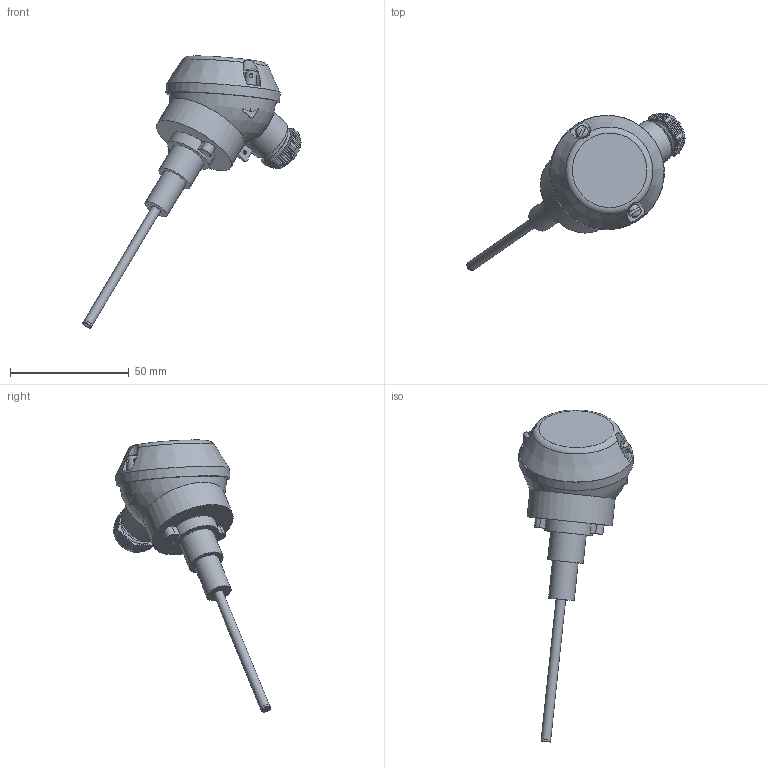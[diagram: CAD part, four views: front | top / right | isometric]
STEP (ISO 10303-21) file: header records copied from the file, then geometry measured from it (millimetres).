
FILE_DESCRIPTION(('STEP AP203'), '1');
FILE_NAME('òñï-í 5.0-60ìì(ñáîðêà)', '', ('UNSPECIFIED'), ('UNSPECIFIED'), 'ASCON STEP Converter 1.6', 'ASCON Math Kernel', '');
FILE_SCHEMA(('CONFIG_CONTROL_DESIGN'));
Length unit declared in the file: millimetre
Products named in the file (17): 栖闉罻; ﾘ琺矜 4; Ãàéêà Ì4; Êë êàëîäêà 731196-002; ﾘ琺矜 758480-006; Êîðïóñ 731196_Ïî óìîë÷àíèþ; Êîëüöî óïëîòíèòåëüíîå 754100-003_Ïî óìîë÷àíèþ; Âèíò Ì3-6; Âèíò 758410-005_Ïî óìîë÷àíèþ; Ïðîêëàäêà 754100_Ïî óìîë÷àíèþ; Êîðïóñ 723110-008-09_Ïî óìîë÷àíèþ; Çàãëóøêà 752513-004-01_Ïî óìîë÷àíèþ; Êðûøêà 753214_Ïî óìîë÷àíèþ; Ïåðåìû÷êà 758480-009; Âòóëêà ðåçüáîâàÿ 715341-002_Ïî óìîë÷àíèþ; Âèíò 715341-003_Ïî óìîë÷àíèþ
Assembly tree (40 placements, depth 3):
  栖闉罻
    ﾘ琺矜 4  x12
    Ãàéêà Ì4  x8
    Êë êàëîäêà 731196-002
    ﾘ琺矜 758480-006  x4
    Êîðïóñ 731196_Ïî óìîë÷àíèþ
    Êîëüöî óïëîòíèòåëüíîå 754100-003_Ïî óìîë÷àíèþ
    Âèíò Ì3-6  x2
    Âèíò 758410-005_Ïî óìîë÷àíèþ  x2
    Ïðîêëàäêà 754100_Ïî óìîë÷àíèþ
    Êîðïóñ 723110-008-09_Ïî óìîë÷àíèþ
      (unnamed)
      Çàãëóøêà 752513-004-01_Ïî óìîë÷àíèþ
    Êðûøêà 753214_Ïî óìîë÷àíèþ
    Ïåðåìû÷êà 758480-009  x2
    Âòóëêà ðåçüáîâàÿ 715341-002_Ïî óìîë÷àíèþ
    Âèíò 715341-003_Ïî óìîë÷àíèþ
Bounding box: 91.71 x 65.98 x 114.36 mm (x, y, z)
Volume: 40885.3 mm3; surface area: 34073.7 mm2
Topology: 39 solids, 39 shells, 821 faces, 2134 edges, 1416 vertices
Faces by surface type: plane 361, cylinder 305, cone 70, bspline 64, torus 19, sphere 2
Full cylindrical faces by diameter (mm): 1.6 x9, 2.46 x2, 2.5 x2, 3 x3, 3.4 x2, 3.5 x1, 4 x14, 4.2 x4, 4.3 x4, 4.5 x1, 5 x2, 5.2 x1, 6 x3, 7 x1, 8 x1, 9 x12, 10 x1, 10.8 x1, 14 x1, 15 x1, 19 x1, 20 x1, 31 x1, 33 x1, 35 x1, 36 x1, 45.5 x1, 46 x1, 48 x1
Entity records: 112943 total; most frequent: CARTESIAN_POINT 95135, ORIENTED_EDGE 2736, DIRECTION 2019, EDGE_CURVE 1368, VERTEX_POINT 950, AXIS2_PLACEMENT_3D 748, EDGE_LOOP 668, B_SPLINE_CURVE_WITH_KNOTS 593
